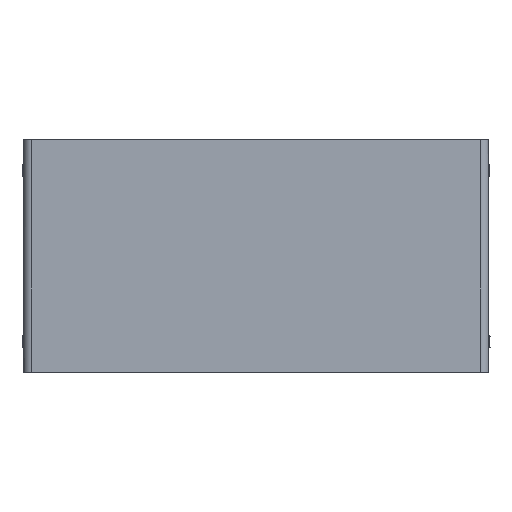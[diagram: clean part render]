
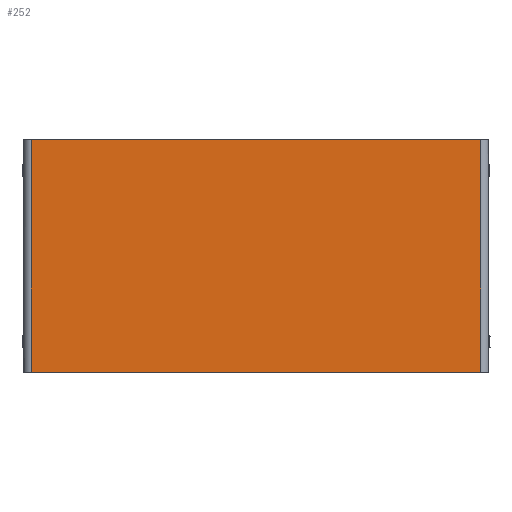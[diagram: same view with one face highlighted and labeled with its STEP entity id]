
A CAD part, top view. The second image highlights one B-rep face of the part: STEP entity #252.
In plain terms, the highlighted planar face has unit normal (0, 0, 1).
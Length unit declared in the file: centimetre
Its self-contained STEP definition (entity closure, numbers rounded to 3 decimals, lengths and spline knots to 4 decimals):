
#252=ADVANCED_FACE($,(#520),#3048,.T.);
#520=FACE_OUTER_BOUND($,#788,.T.);
#788=EDGE_LOOP($,(#1604,#1605,#1606,#1607));
#1604=ORIENTED_EDGE($,*,*,#2389,.T.);
#1605=ORIENTED_EDGE($,*,*,#2390,.T.);
#1606=ORIENTED_EDGE($,*,*,#2391,.T.);
#1607=ORIENTED_EDGE($,*,*,#2387,.F.);
#2387=EDGE_CURVE($,#2834,#2835,#3436,.T.);
#2389=EDGE_CURVE($,#2834,#2836,#3437,.T.);
#2390=EDGE_CURVE($,#2836,#2837,#3438,.T.);
#2391=EDGE_CURVE($,#2837,#2835,#3439,.T.);
#2834=VERTEX_POINT($,#6333);
#2835=VERTEX_POINT($,#6334);
#2836=VERTEX_POINT($,#6335);
#2837=VERTEX_POINT($,#6336);
#3048=PLANE($,#3972);
#3436=B_SPLINE_CURVE_WITH_KNOTS($,1,(#6234,#6235),.UNSPECIFIED.,.F.,.F.,
(2,2),(0.,600.),.UNSPECIFIED.);
#3437=B_SPLINE_CURVE_WITH_KNOTS($,1,(#6239,#6240),.UNSPECIFIED.,.F.,.F.,
(2,2),(0.,1160.),.UNSPECIFIED.);
#3438=B_SPLINE_CURVE_WITH_KNOTS($,1,(#6241,#6242),.UNSPECIFIED.,.F.,.F.,
(2,2),(0.,600.),.UNSPECIFIED.);
#3439=B_SPLINE_CURVE_WITH_KNOTS($,1,(#6243,#6244),.UNSPECIFIED.,.F.,.F.,
(2,2),(-1160.,0.),.UNSPECIFIED.);
#3972=AXIS2_PLACEMENT_3D($,#6300,#4087,$);
#4087=DIRECTION($,(0.,0.,1.));
#6234=CARTESIAN_POINT($,(115.2391,59.1652,31.4));
#6235=CARTESIAN_POINT($,(115.2391,-0.8348,31.4));
#6239=CARTESIAN_POINT($,(115.2391,59.1652,31.4));
#6240=CARTESIAN_POINT($,(-0.7609,59.1652,31.4));
#6241=CARTESIAN_POINT($,(-0.7609,59.1652,31.4));
#6242=CARTESIAN_POINT($,(-0.7609,-0.8348,31.4));
#6243=CARTESIAN_POINT($,(-0.7609,-0.8348,31.4));
#6244=CARTESIAN_POINT($,(115.2391,-0.8348,31.4));
#6300=CARTESIAN_POINT($,(115.2391,59.1652,31.4));
#6333=CARTESIAN_POINT($,(115.2391,59.1652,31.4));
#6334=CARTESIAN_POINT($,(115.2391,-0.8348,31.4));
#6335=CARTESIAN_POINT($,(-0.7609,59.1652,31.4));
#6336=CARTESIAN_POINT($,(-0.7609,-0.8348,31.4));
